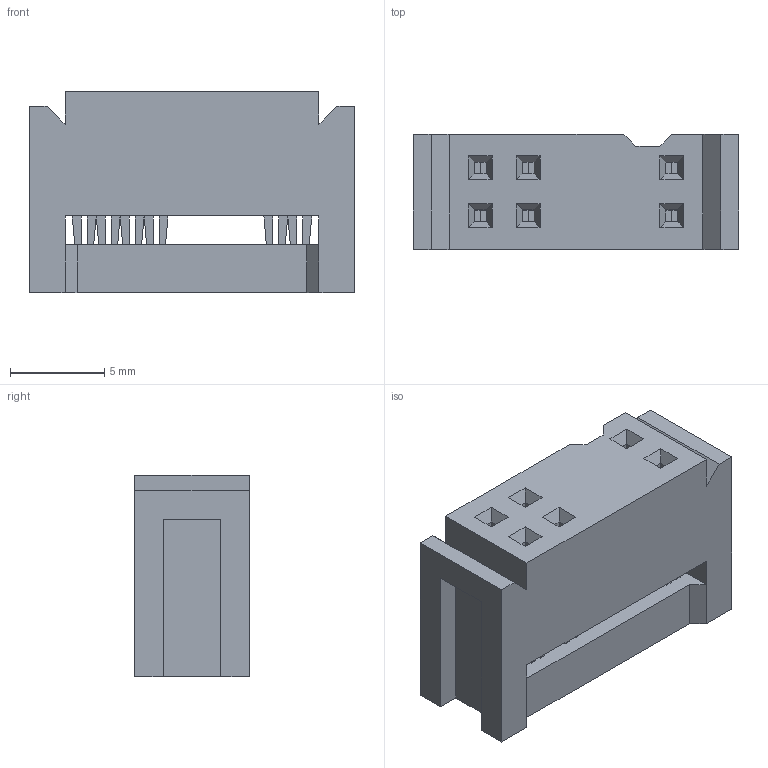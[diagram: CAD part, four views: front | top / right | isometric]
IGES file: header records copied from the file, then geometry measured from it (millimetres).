
Start section: Comment
Global section: file name: 89110-0001_se.igs; native system:  By Spatial Corp. IGES DAT; preprocessor: XIGES V1.0; author: Author; organization: Title; date: 20060117.101101; units: metre
Bounding box: 17.27 x 6.1 x 10.67 mm (x, y, z)
Surface area: 998.5 mm2 (no closed solid volume)
Topology: 0 solids, 0 shells, 139 faces, 774 edges, 774 vertices
Faces by surface type: extrusion 139
